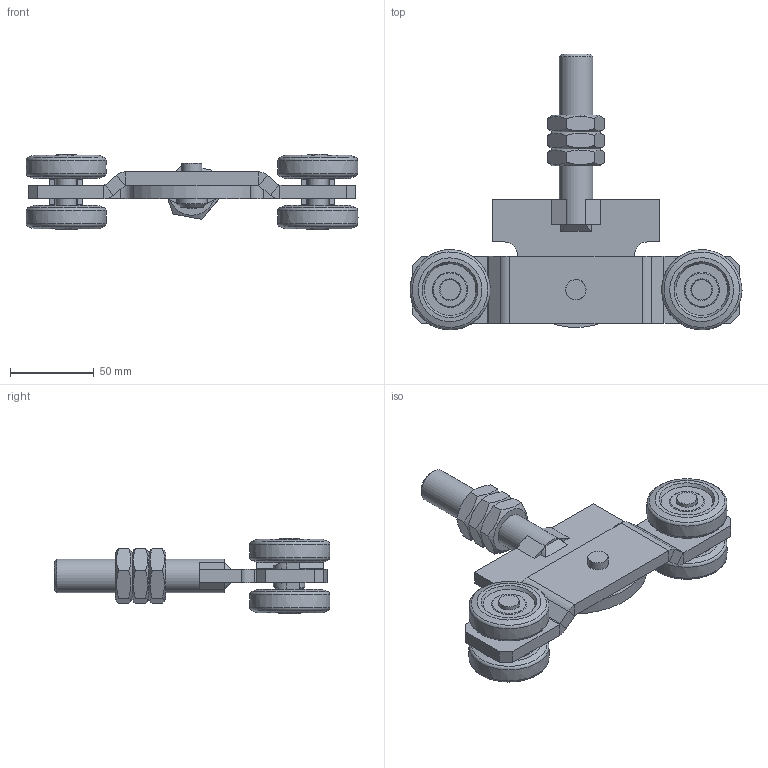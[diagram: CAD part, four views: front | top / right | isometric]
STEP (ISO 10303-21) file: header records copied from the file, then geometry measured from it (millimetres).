
FILE_DESCRIPTION(/* description */ ('Doppelrolle mit Schraub Nr.3'),/* implementation_level */ '2;1');
FILE_NAME(/* name */ 'Q:\sge-ma\Produktmanagement-STB\STB\Workspace\stp\010336976.stp',/* time_stamp */ '2016-07-14T09:40:59+02:00',/* author */ ('avschreier'),/* organization */ (''),/* preprocessor_version */ 'ST-DEVELOPER v16.1',/* originating_system */ 'Autodesk Inventor 2016',/* authorisation */ '');
FILE_SCHEMA (('AUTOMOTIVE_DESIGN { 1 0 10303 214 3 1 1 }'));
Length unit declared in the file: millimetre
Products named in the file (10): 010336976_Schweißnähte; 000302077; 337000119; 336290030; 000303237; 000304012; 000302240; 000302013; DIN_EN_ISO_4035-M20_en; 010336976
Assembly tree (18 placements, depth 2):
  010336976
    010336976_Schweißnähte
    000302077
    337000119
    336290030  x4
    000303237  x4
    000304012  x2
    000302240
    000302013
    DIN_EN_ISO_4035-M20_en  x3
Bounding box: 197.91 x 164.41 x 45 mm (x, y, z)
Volume: 246064.6 mm3; surface area: 80229.5 mm2
Topology: 23 solids, 23 shells, 383 faces, 871 edges, 547 vertices
Faces by surface type: plane 234, cylinder 51, cone 50, bspline 40, torus 8
Full cylindrical faces by diameter (mm): 12 x7, 12.1 x1, 12.3 x1, 14 x2, 17.294 x3, 18 x1, 20 x1
Entity records: 17170 total; most frequent: CARTESIAN_POINT 13027, DIRECTION 836, ORIENTED_EDGE 752, EDGE_CURVE 372, AXIS2_PLACEMENT_3D 305, VERTEX_POINT 245, EDGE_LOOP 227, LINE 226
